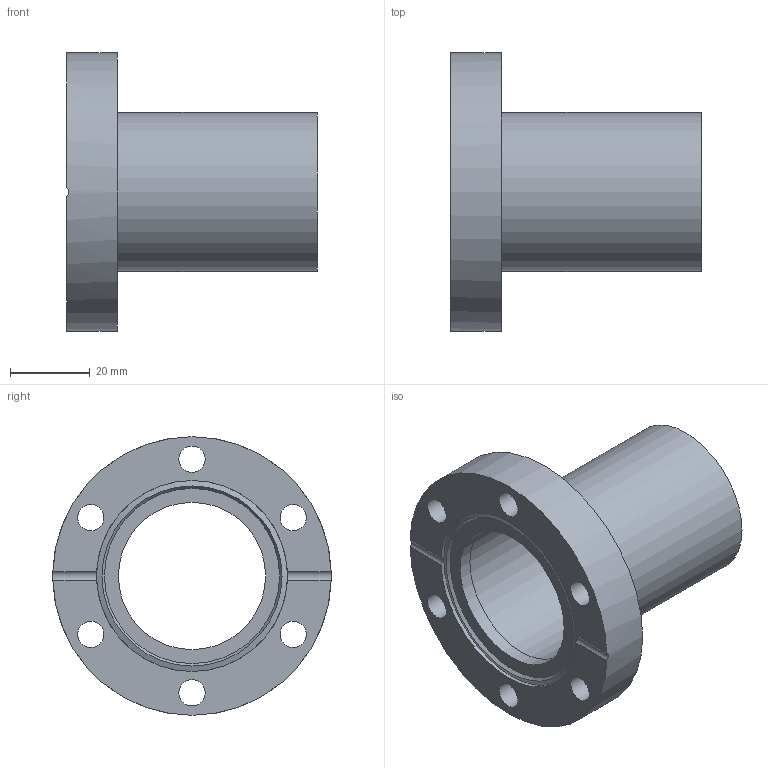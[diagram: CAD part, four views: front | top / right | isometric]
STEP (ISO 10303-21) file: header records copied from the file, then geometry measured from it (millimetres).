
FILE_DESCRIPTION( ( 'Unknown' ), '1' );
FILE_NAME( 'X:/Daten ( aktueller Bestand )/Projekte und Zeichnungen/Solid Edge/STP-Dateien/CF-Teile/7572F44.stp', 'Unknown', ( 'Unknown' ), ( 'Unknown' ), 'PSStep 14.0', 'Unknown', ' ' );
FILE_SCHEMA( ( 'AUTOMOTIVE_DESIGN { 1 0 10303 214 1 1 1 1 }' ) );
Length unit declared in the file: millimetre
Products named in the file (5): 7572F4-1; 7512F4; Assem1
Assembly tree (4 placements, depth 3):
  Assem1
    7512F4
      7512F4
    7572F4-1
      7572F4-1
Bounding box: 63 x 70 x 70 mm (x, y, z)
Volume: 40813.2 mm3; surface area: 25576.5 mm2
Topology: 2 solids, 2 shells, 23 faces, 58 edges, 40 vertices
Faces by surface type: cylinder 14, plane 7, cone 2
Full cylindrical faces by diameter (mm): 6.6 x6, 37 x2, 40 x1, 40.2 x1, 48 x1, 70 x1
Entity records: 932 total; most frequent: CARTESIAN_POINT 150, DIRECTION 120, ORIENTED_EDGE 72, AXIS2_PLACEMENT_3D 58, EDGE_LOOP 54, EDGE_CURVE 36, FACE_OUTER_BOUND 35, VERTEX_POINT 32
